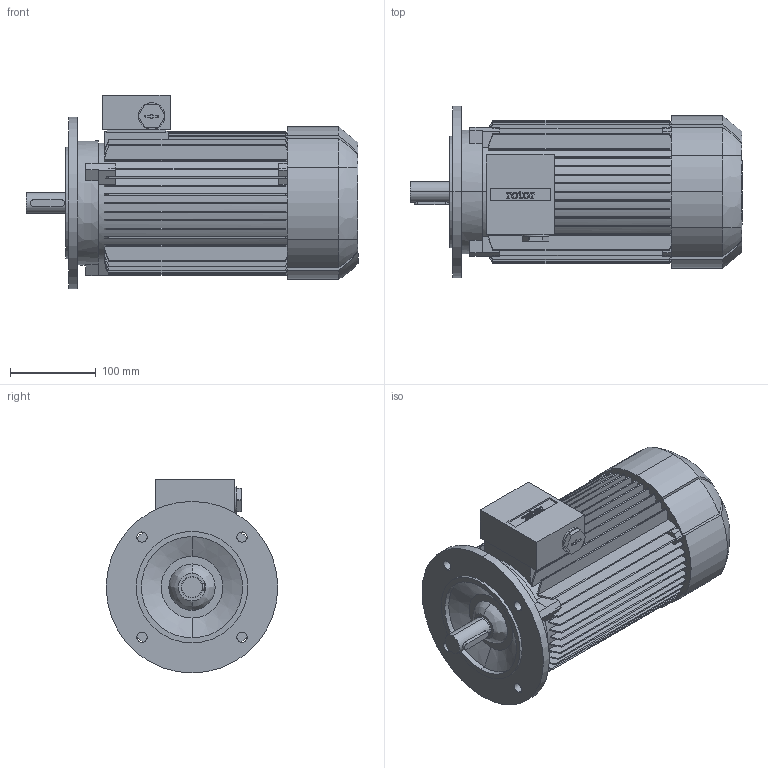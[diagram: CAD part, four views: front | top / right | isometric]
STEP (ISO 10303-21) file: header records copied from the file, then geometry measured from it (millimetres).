
FILE_DESCRIPTION (( 'STEP AP214' ), '1' );
FILE_NAME ('6RN90L06E34 IM3001.STEP', '2014-09-22T08:43:36', ( 'rbc_ict' ), ( 'REGAL' ), 'SwSTEP 2.0', 'SolidWorks 2012', '' );
FILE_SCHEMA (( 'AUTOMOTIVE_DESIGN' ));
Length unit declared in the file: millimetre
Products named in the file (1): 6RN90L06E34 IM3001
Bounding box: 387 x 200 x 226 mm (x, y, z)
Volume: 6600403.5 mm3; surface area: 541789.4 mm2
Topology: 1 solids, 1 shells, 575 faces, 1661 edges, 1107 vertices
Faces by surface type: plane 336, bspline 135, cylinder 100, cone 4
Entity records: 22432 total; most frequent: CARTESIAN_POINT 7885, ORIENTED_EDGE 3322, DIRECTION 2683, EDGE_CURVE 1661, VERTEX_POINT 1107, VECTOR 933, LINE 933, AXIS2_PLACEMENT_3D 875
